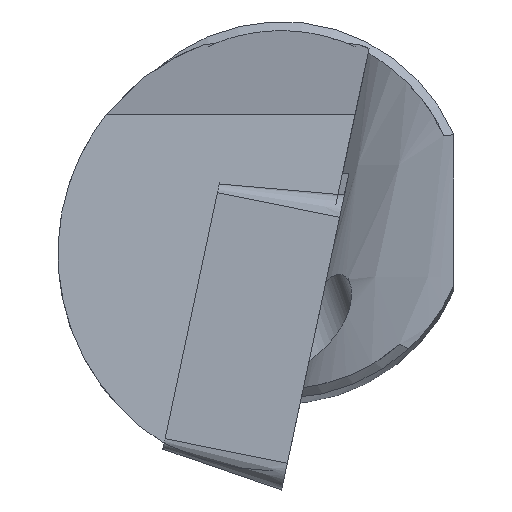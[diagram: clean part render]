
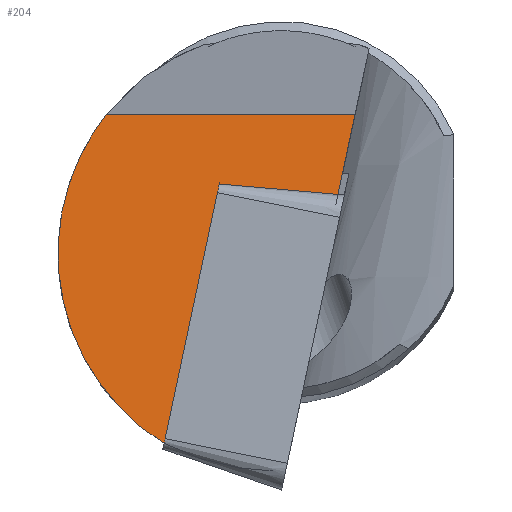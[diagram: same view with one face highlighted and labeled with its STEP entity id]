
A CAD part, top view. The second image highlights one B-rep face of the part: STEP entity #204.
In plain terms, the highlighted planar face has unit normal (0, 0.089, 0.996).
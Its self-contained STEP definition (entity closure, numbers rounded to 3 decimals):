
#66=ELLIPSE('',#614,8.331,8.297);
#67=ELLIPSE('',#617,7.145,7.117);
#204=ADVANCED_FACE('',(#243),#224,.F.);
#224=PLANE('',#618);
#243=FACE_OUTER_BOUND('',#269,.T.);
#269=EDGE_LOOP('',(#361,#362,#363,#364));
#361=ORIENTED_EDGE('',*,*,#504,.T.);
#362=ORIENTED_EDGE('',*,*,#507,.F.);
#363=ORIENTED_EDGE('',*,*,#514,.T.);
#364=ORIENTED_EDGE('',*,*,#515,.F.);
#450=VERTEX_POINT('',#898);
#451=VERTEX_POINT('',#899);
#452=VERTEX_POINT('',#912);
#456=VERTEX_POINT('',#924);
#504=EDGE_CURVE('',#450,#451,#66,.T.);
#507=EDGE_CURVE('',#452,#451,#551,.T.);
#514=EDGE_CURVE('',#452,#456,#558,.T.);
#515=EDGE_CURVE('',#450,#456,#67,.T.);
#551=LINE('',#911,#577);
#558=LINE('',#923,#584);
#577=VECTOR('',#713,1.);
#584=VECTOR('',#722,1.);
#614=AXIS2_PLACEMENT_3D('',#897,#709,#710);
#617=AXIS2_PLACEMENT_3D('',#925,#723,#724);
#618=AXIS2_PLACEMENT_3D('',#926,#725,#726);
#709=DIRECTION('',(0.,0.089,0.996));
#710=DIRECTION('',(0.,-0.996,0.089));
#713=DIRECTION('',(-0.207,-0.974,0.087));
#722=DIRECTION('',(-1.,0.,0.));
#723=DIRECTION('',(0.,-0.089,-0.996));
#724=DIRECTION('',(0.,-0.996,0.089));
#725=DIRECTION('',(0.,-0.089,-0.996));
#726=DIRECTION('',(0.,0.996,-0.089));
#897=CARTESIAN_POINT('',(0.,-0.065,-1.675));
#898=CARTESIAN_POINT('',(-3.736,-7.474,-1.013));
#899=CARTESIAN_POINT('',(-0.07,-8.362,-0.933));
#911=CARTESIAN_POINT('',(0.143,-7.359,-1.023));
#912=CARTESIAN_POINT('',(2.345,3.,-1.949));
#923=CARTESIAN_POINT('',(-8.4,3.,-1.949));
#924=CARTESIAN_POINT('',(-5.58,3.,-1.949));
#925=CARTESIAN_POINT('',(0.,-1.417,-1.554));
#926=CARTESIAN_POINT('',(-8.4,-9.001,-0.876));
